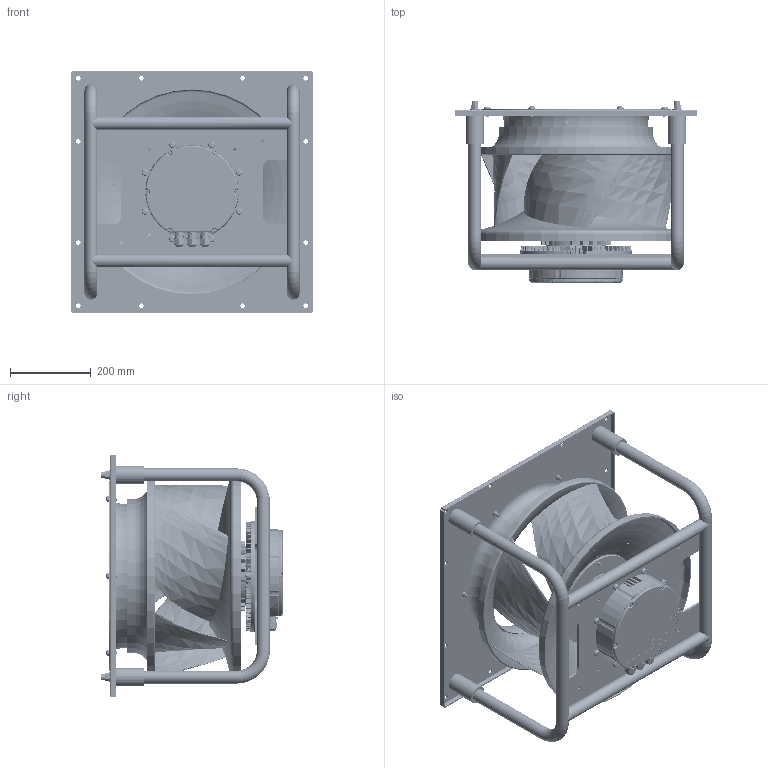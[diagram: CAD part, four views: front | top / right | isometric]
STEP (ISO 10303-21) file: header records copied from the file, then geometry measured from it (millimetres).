
FILE_DESCRIPTION((''),'2;1');
FILE_NAME('GTMA45PBK39R-V001_3D_20260417_ASM','2026-04-17T14:01:04',('JUNLIN.CHEN'),(''),'CREO PARAMETRIC BY PTC INC, 2022424','CREO PARAMETRIC BY PTC INC, 2022424','');
FILE_SCHEMA(('CONFIG_CONTROL_DESIGN'));
Length unit declared in the file: millimetre
Products named in the file (46): PILLOW-4104089800_1___ASM_2___1; NEW_OD112_STATOR________ASM_1_1_ASM; NONE-340377_1___1__1_1_2_1_1_1; NONE-341496_1___1__1_1_2_1_1_1; NONE-349317_1___1__1_1_2_1_1_1; SHAFT_ASSY_AFTER__NEW___ASM_1_1_ASM; NEW_OD112_ROTOR_ASSY_ASM_1____1_ASM; GTM036PUQ36R-D_2__ASM_1___ASM_2_ASM; 0-PILLOW__ASM_1__ASM_1_1_ASM_1__ASM; 0-CASE-3323448900_1__1_1_2_1_1_; 0-WIND-3475535000_1__1_1_2_1_1_; 0-M4-10L-3105567900_2__1_1_2_1_; 0-NOZZLE-3323446900_1__1_1_2_1_; 0-FASTENINGS_LTD-M12__1__1_1_2_; 0-WASHER__1__1_1_2_1_1_1; 0-T45--M8-3101900000_1__1_1_2_1; 1-575940_____00_1__1_1_2_1_1_1; 2-1019968_____00_1__1_1_2_1_1_1; 3-1060198_____00_1__1_1_2_1_1_1; 0-4101695400-AL_BOTTOM_COVER__1_ASM; CABLE_GLAND__3479012600____1__2; 0-3105864700-M4X20__1__1_1_2_1_; BOTTOM-GTM045_______1_1__1_1_5_; BOTTOM-GTM045_______1_2__1_1_2_; BOTTOM-GTM045_______1_3__1_1_2_; BOTTOM-GTM045_______1__ASM_1_1__ASM; TUBE-1-GTM045_______1__1_1_2_1_; TUBE-2-GTM045_______1__1_1_2_1_; TOP-GTM045_______1__1_1_2_1_1_1; 0-FRAME_NEW_ASM_1__ASM_1_1_ASM__ASM; 0-GTMA45PBK39R-V001_0617_ASM__1_ASM; 0-GTMA45PBK39R_0130__ASM_1_1_AS_ASM; 00_1-26780_1______1_1_1_2_1_1_1; 00_1-30475_1______2_1_1_2_1_1_1; 400_1_1______2_1_1_2_1_1_1; ASM0001_ASM_3_ASM_1_1_ASM_1_ASM_ASM; 0-IMPELLER-SHOW_ASM_1_1_ASM_1_A_ASM; 0-GTMA45PBK39R-V001-SHOW_ASM__1_ASM; 00-GTMA45PBK39R-V001-SHOW_3D_AS_ASM; 0-SYSTEM_CHECK_ASM_11_ASM_1_ASM_ASM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
Assembly tree (89 placements, depth 15):
  GTMA45PBK39R-V001_3D_20260417_ASM
    0-FAN_GTMA45PBK39R-V001_ASM_4_ASM
      0-GTMA45PBK39R-V001-R01_3D_ASM__ASM
        0-SYSTEM_2FAN_ASM_1_ASM_1_ASM
          0-SYSTEM_2FAN_ASM_1_ASM_1_ASM_1_ASM
            0-SYSTEM_CHECK_ASM_11_ASM_1_ASM_ASM
              00-GTMA45PBK39R-V001-SHOW_3D_AS_ASM
                0-GTMA45PBK39R-V001-SHOW_ASM__1_ASM
                  0-GTMA45PBK39R_0130__ASM_1_1_AS_ASM
                  0-IMPELLER-SHOW_ASM_1_1_ASM_1_A_ASM
      3105652900--T50--M10--L20__1  x8
Bounding box: 600 x 447.75 x 600 mm (x, y, z)
Volume: 6133051.3 mm3; surface area: 3570090.9 mm2
Topology: 67 solids, 73 shells, 11828 faces, 30895 edges, 18748 vertices
Faces by surface type: cylinder 2996, plane 2623, torus 2101, bspline 1818, cone 873, extrusion 751, sphere 664, revolution 2
Entity records: 499097 total; most frequent: CARTESIAN_POINT 268241, ORIENTED_EDGE 51444, DIRECTION 43127, EDGE_CURVE 25751, AXIS2_PLACEMENT_3D 17620, VERTEX_POINT 15870, EDGE_LOOP 10810, FACE_OUTER_BOUND 10226
